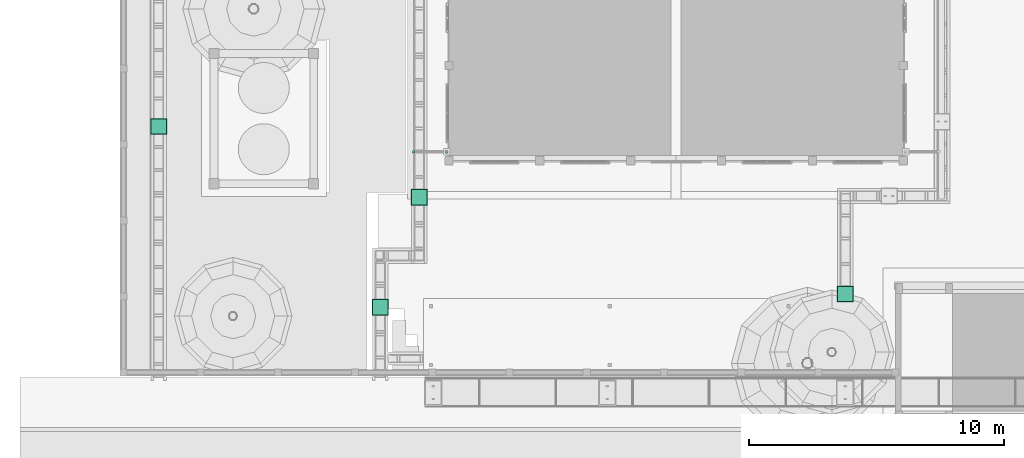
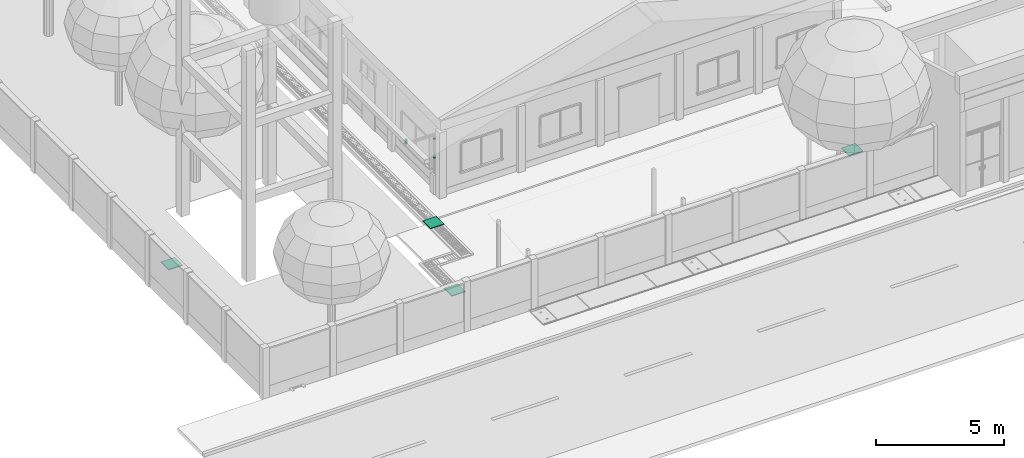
# One storey, part 109 of 166: 8 distribution chamber elements, 3 flow segments.
"""IFC2X3 building model written with IfcOpenShell, lengths in metres."""

from ifc_helpers import new_model, si_unit, origin, origin_with_axes, place, context, subcontext, project, spatial, faceted_brep, element, save


model = new_model("IFC2X3")

# Units and contexts
model_context = context("Model", 3, precision=1e-05, world=origin_with_axes())
body_context = subcontext(model_context, "Body", "Model", "MODEL_VIEW")
ifc_project = project(units=[si_unit("LENGTHUNIT", "METRE"), si_unit("AREAUNIT", "SQUARE_METRE"), si_unit("VOLUMEUNIT", "CUBIC_METRE"), si_unit("PLANEANGLEUNIT", "RADIAN")], contexts=[model_context])

# Site, building, storey
site_placement = place(None, origin_with_axes())
site = spatial("IfcSite", under=ifc_project, at=site_placement, Name="Predio Los Mangos - Morales, San Martín", CompositionType="ELEMENT")
building_placement = place(site_placement, origin())
building = spatial("IfcBuilding", under=site, at=building_placement, Name="Hogar de Refugio Temporal", CompositionType="ELEMENT")
storey_placement = place(building_placement, origin())
storey = spatial("IfcBuildingStorey", under=building, at=storey_placement, Name="NIVEL 1 (NPT +0.00)", CompositionType="ELEMENT", Elevation=0.0)

# Flow segments
flow_segment_1_placement = place(storey_placement, origin())
element("IfcFlowSegment", 1, at=flow_segment_1_placement, inside=storey, Name="montante_boquilla", ObjectType="Montante PVC 4\"", context=body_context, shape_type="Brep", body=[
    faceted_brep([(12.42, 26.705, 3.13), (12.42, 26.705, 2.91), (12.3925, 26.6976, 2.91), (12.3925, 26.6976, 3.13), (12.3724, 26.6775, 2.91), (12.3724, 26.6775, 3.13), (12.365, 26.65, 2.91), (12.365, 26.65, 3.13), (12.3724, 26.6225, 2.91), (12.3724, 26.6225, 3.13), (12.3925, 26.6024, 2.91), (12.3925, 26.6024, 3.13), (12.42, 26.595, 2.91), (12.42, 26.595, 3.13), (12.4475, 26.6024, 2.91), (12.4475, 26.6024, 3.13), (12.4676, 26.6225, 2.91), (12.4676, 26.6225, 3.13), (12.475, 26.65, 2.91), (12.475, 26.65, 3.13), (12.4676, 26.6775, 2.91), (12.4676, 26.6775, 3.13), (12.4475, 26.6976, 2.91), (12.4475, 26.6976, 3.13)], [[[0, 1, 2, 3]], [[3, 2, 4, 5]], [[5, 4, 6, 7]], [[7, 6, 8, 9]], [[9, 8, 10, 11]], [[11, 10, 12, 13]], [[13, 12, 14, 15]], [[15, 14, 16, 17]], [[17, 16, 18, 19]], [[19, 18, 20, 21]], [[2, 1, 22, 20, 18, 16, 14, 12, 10, 8, 6, 4]], [[21, 20, 22, 23]], [[23, 22, 1, 0]], [[0, 3, 5, 7, 9, 11, 13, 15, 17, 19, 21, 23]]]),
])
flow_segment_2_placement = place(storey_placement, origin())
element("IfcFlowSegment", 2, at=flow_segment_2_placement, inside=storey, Name="montante_abrazadera", ObjectType="Montante PVC 4\"", context=body_context, shape_type="Brep", body=[
    faceted_brep([(13.71, 26.588, 1.8), (13.71, 26.588, 1.84), (13.679, 26.5963, 1.84), (13.679, 26.5963, 1.8), (13.6563, 26.619, 1.84), (13.6563, 26.619, 1.8), (13.648, 26.65, 1.84), (13.648, 26.65, 1.8), (13.6563, 26.681, 1.84), (13.6563, 26.681, 1.8), (13.679, 26.7037, 1.84), (13.679, 26.7037, 1.8), (13.71, 26.712, 1.84), (13.71, 26.712, 1.8), (13.741, 26.7037, 1.84), (13.741, 26.7037, 1.8), (13.7637, 26.681, 1.84), (13.7637, 26.681, 1.8), (13.772, 26.65, 1.84), (13.772, 26.65, 1.8), (13.7637, 26.619, 1.84), (13.7637, 26.619, 1.8), (13.741, 26.5963, 1.84), (13.741, 26.5963, 1.8)], [[[0, 1, 2, 3]], [[3, 2, 4, 5]], [[5, 4, 6, 7]], [[7, 6, 8, 9]], [[9, 8, 10, 11]], [[11, 10, 12, 13]], [[13, 12, 14, 15]], [[15, 14, 16, 17]], [[17, 16, 18, 19]], [[19, 18, 20, 21]], [[2, 1, 22, 20, 18, 16, 14, 12, 10, 8, 6, 4]], [[21, 20, 22, 23]], [[23, 22, 1, 0]], [[0, 3, 5, 7, 9, 11, 13, 15, 17, 19, 21, 23]]]),
])
flow_segment_3_placement = place(storey_placement, origin())
element("IfcFlowSegment", 3, at=flow_segment_3_placement, inside=storey, Name="montante_abrazadera", ObjectType="Montante PVC 4\"", context=body_context, shape_type="Brep", body=[
    faceted_brep([(13.71, 26.588, 2.7), (13.71, 26.588, 2.74), (13.679, 26.5963, 2.74), (13.679, 26.5963, 2.7), (13.6563, 26.619, 2.74), (13.6563, 26.619, 2.7), (13.648, 26.65, 2.74), (13.648, 26.65, 2.7), (13.6563, 26.681, 2.74), (13.6563, 26.681, 2.7), (13.679, 26.7037, 2.74), (13.679, 26.7037, 2.7), (13.71, 26.712, 2.74), (13.71, 26.712, 2.7), (13.741, 26.7037, 2.74), (13.741, 26.7037, 2.7), (13.7637, 26.681, 2.74), (13.7637, 26.681, 2.7), (13.772, 26.65, 2.74), (13.772, 26.65, 2.7), (13.7637, 26.619, 2.74), (13.7637, 26.619, 2.7), (13.741, 26.5963, 2.74), (13.741, 26.5963, 2.7)], [[[0, 1, 2, 3]], [[3, 2, 4, 5]], [[5, 4, 6, 7]], [[7, 6, 8, 9]], [[9, 8, 10, 11]], [[11, 10, 12, 13]], [[13, 12, 14, 15]], [[15, 14, 16, 17]], [[17, 16, 18, 19]], [[19, 18, 20, 21]], [[2, 1, 22, 20, 18, 16, 14, 12, 10, 8, 6, 4]], [[21, 20, 22, 23]], [[23, 22, 1, 0]], [[0, 3, 5, 7, 9, 11, 13, 15, 17, 19, 21, 23]]]),
])

# Distribution chamber elements
distribution_chamber_element_1_placement = place(storey_placement, origin())
element("IfcDistributionChamberElement", 4, at=distribution_chamber_element_1_placement, inside=storey, Name="tapa_insp_junta", ObjectType="Tapa de inspección", context=body_context, shape_type="Brep", body=[
    faceted_brep([(2.113, 27.321, 0.082), (2.113, 27.961, 0.082), (2.753, 27.961, 0.082), (2.753, 27.321, 0.082), (2.113, 27.321, 0.096), (2.753, 27.321, 0.096), (2.753, 27.961, 0.096), (2.113, 27.961, 0.096)], [[[0, 1, 2, 3]], [[4, 5, 6, 7]], [[0, 3, 5, 4]], [[3, 2, 6, 5]], [[2, 1, 7, 6]], [[1, 0, 4, 7]]]),
])
distribution_chamber_element_2_placement = place(storey_placement, origin())
element("IfcDistributionChamberElement", 5, at=distribution_chamber_element_2_placement, inside=storey, Name="tapa_inspeccion", ObjectType="Tapa de inspección", context=body_context, shape_type="Brep", body=[
    faceted_brep([(2.133, 27.341, 0.082), (2.133, 27.941, 0.082), (2.733, 27.941, 0.082), (2.733, 27.341, 0.082), (2.133, 27.341, 0.104), (2.733, 27.341, 0.104), (2.733, 27.941, 0.104), (2.133, 27.941, 0.104)], [[[0, 1, 2, 3]], [[4, 5, 6, 7]], [[0, 3, 5, 4]], [[3, 2, 6, 5]], [[2, 1, 7, 6]], [[1, 0, 4, 7]]]),
])
distribution_chamber_element_3_placement = place(storey_placement, origin())
element("IfcDistributionChamberElement", 6, at=distribution_chamber_element_3_placement, inside=storey, Name="tapa_insp_junta", ObjectType="Tapa de inspección", context=body_context, shape_type="Brep", body=[
    faceted_brep([(12.315, 24.554, 0.148), (12.315, 25.194, 0.148), (12.955, 25.194, 0.148), (12.955, 24.554, 0.148), (12.315, 24.554, 0.162), (12.955, 24.554, 0.162), (12.955, 25.194, 0.162), (12.315, 25.194, 0.162)], [[[0, 1, 2, 3]], [[4, 5, 6, 7]], [[0, 3, 5, 4]], [[3, 2, 6, 5]], [[2, 1, 7, 6]], [[1, 0, 4, 7]]]),
])
distribution_chamber_element_4_placement = place(storey_placement, origin())
element("IfcDistributionChamberElement", 7, at=distribution_chamber_element_4_placement, inside=storey, Name="tapa_inspeccion", ObjectType="Tapa de inspección", context=body_context, shape_type="Brep", body=[
    faceted_brep([(12.335, 24.574, 0.148), (12.335, 25.174, 0.148), (12.935, 25.174, 0.148), (12.935, 24.574, 0.148), (12.335, 24.574, 0.17), (12.935, 24.574, 0.17), (12.935, 25.174, 0.17), (12.335, 25.174, 0.17)], [[[0, 1, 2, 3]], [[4, 5, 6, 7]], [[0, 3, 5, 4]], [[3, 2, 6, 5]], [[2, 1, 7, 6]], [[1, 0, 4, 7]]]),
])
distribution_chamber_element_5_placement = place(storey_placement, origin())
element("IfcDistributionChamberElement", 8, at=distribution_chamber_element_5_placement, inside=storey, Name="tapa_insp_junta", ObjectType="Tapa de inspección", context=body_context, shape_type="Brep", body=[
    faceted_brep([(10.793, 20.247, 0.082), (10.793, 20.887, 0.082), (11.433, 20.887, 0.082), (11.433, 20.247, 0.082), (10.793, 20.247, 0.096), (11.433, 20.247, 0.096), (11.433, 20.887, 0.096), (10.793, 20.887, 0.096)], [[[0, 1, 2, 3]], [[4, 5, 6, 7]], [[0, 3, 5, 4]], [[3, 2, 6, 5]], [[2, 1, 7, 6]], [[1, 0, 4, 7]]]),
])
distribution_chamber_element_6_placement = place(storey_placement, origin())
element("IfcDistributionChamberElement", 9, at=distribution_chamber_element_6_placement, inside=storey, Name="tapa_inspeccion", ObjectType="Tapa de inspección", context=body_context, shape_type="Brep", body=[
    faceted_brep([(10.813, 20.267, 0.082), (10.813, 20.867, 0.082), (11.413, 20.867, 0.082), (11.413, 20.267, 0.082), (10.813, 20.267, 0.104), (11.413, 20.267, 0.104), (11.413, 20.867, 0.104), (10.813, 20.867, 0.104)], [[[0, 1, 2, 3]], [[4, 5, 6, 7]], [[0, 3, 5, 4]], [[3, 2, 6, 5]], [[2, 1, 7, 6]], [[1, 0, 4, 7]]]),
])
distribution_chamber_element_7_placement = place(storey_placement, origin())
element("IfcDistributionChamberElement", 10, at=distribution_chamber_element_7_placement, inside=storey, Name="tapa_insp_junta", ObjectType="Tapa de inspección", context=body_context, shape_type="Brep", body=[
    faceted_brep([(29.004, 20.76, 0.082), (29.004, 21.4, 0.082), (29.644, 21.4, 0.082), (29.644, 20.76, 0.082), (29.004, 20.76, 0.096), (29.644, 20.76, 0.096), (29.644, 21.4, 0.096), (29.004, 21.4, 0.096)], [[[0, 1, 2, 3]], [[4, 5, 6, 7]], [[0, 3, 5, 4]], [[3, 2, 6, 5]], [[2, 1, 7, 6]], [[1, 0, 4, 7]]]),
])
distribution_chamber_element_8_placement = place(storey_placement, origin())
element("IfcDistributionChamberElement", 11, at=distribution_chamber_element_8_placement, inside=storey, Name="tapa_inspeccion", ObjectType="Tapa de inspección", context=body_context, shape_type="Brep", body=[
    faceted_brep([(29.024, 20.78, 0.082), (29.024, 21.38, 0.082), (29.624, 21.38, 0.082), (29.624, 20.78, 0.082), (29.024, 20.78, 0.104), (29.624, 20.78, 0.104), (29.624, 21.38, 0.104), (29.024, 21.38, 0.104)], [[[0, 1, 2, 3]], [[4, 5, 6, 7]], [[0, 3, 5, 4]], [[3, 2, 6, 5]], [[2, 1, 7, 6]], [[1, 0, 4, 7]]]),
])

save(model, "model.ifc")
